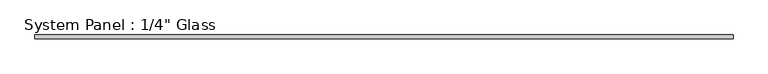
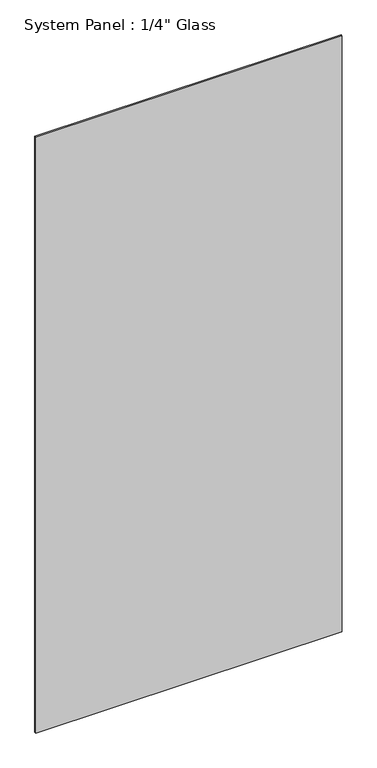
"""IFC4 building model written with IfcOpenShell, lengths in millimetres: plate geometry."""

from ifc_helpers import new_model, si_unit, origin, origin_with_axes, place, context, project, spatial, polyline, outline, extrude, source, transform, mapped, element, save


def plate_15429445(model_context):
    return source(origin(), model_context, "Body", "SweptSolid", [
        extrude(outline(polyline([(605.9228608, -3.175), (-605.9228608, -3.175), (-605.9228608, 3.175), (605.9228608, 3.175), (605.9228608, -3.175)])), origin_with_axes(), (0.0, 0.0, 1.0), 2489.2),
    ])


if __name__ == "__main__":
    model = new_model("IFC4")
    model_context = context("Model", 3, world=origin())
    ifc_project = project(units=[si_unit("LENGTHUNIT", "METRE", prefix="MILLI")], contexts=[model_context])
    site = spatial("IfcSite", under=ifc_project)
    building = spatial("IfcBuilding", under=site)
    placement = place(None, origin())
    plate_shape = plate_15429445(model_context)
    element("IfcPlate", 1, ObjectType="System Panel : 1/4\" Glass", at=placement, inside=building, context=model_context, shape_type="MappedRepresentation", body=[
        mapped(plate_shape, transform((0.0, 0.0, 0.0), x_axis=(1.0, 0.0, 0.0), y_axis=(0.0, 1.0, 0.0), z_axis=(0.0, 0.0, 1.0))),
    ])
    save(model, "model.ifc")
